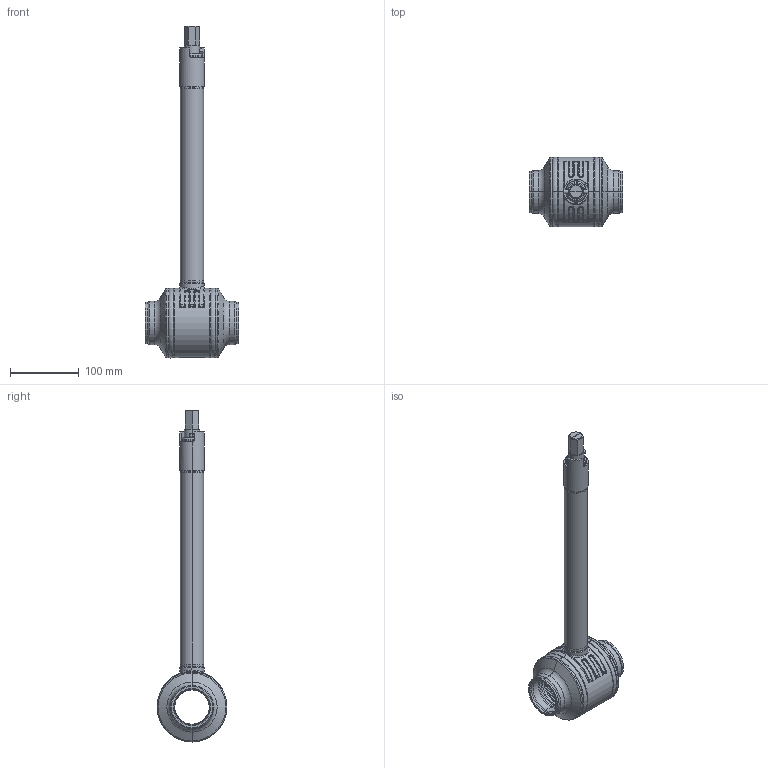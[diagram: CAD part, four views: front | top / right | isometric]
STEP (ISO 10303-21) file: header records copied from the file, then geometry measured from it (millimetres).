
FILE_DESCRIPTION((''),'2;1');
FILE_NAME('WSK21619_KHMO_50-U_KU_SW0001','2022-07-04T11:15:42',('jeitlers'),('KLINGER'),'CREO PARAMETRIC BY PTC INC, 2020184','CREO PARAMETRIC BY PTC INC, 2020184','');
FILE_SCHEMA(('AUTOMOTIVE_DESIGN { 1 0 10303 214 1 1 1 1 }'));
Length unit declared in the file: millimetre
Products named in the file (1): WSK21619_KHMO_50-U_KU_SW0001
Bounding box: 136 x 101.91 x 483.95 mm (x, y, z)
Volume: 772630.3 mm3; surface area: 232765.8 mm2
Topology: 4 solids, 4 shells, 548 faces, 1191 edges, 680 vertices
Faces by surface type: cylinder 161, torus 142, plane 81, bspline 80, cone 78, sphere 6
Entity records: 26333 total; most frequent: CARTESIAN_POINT 13535, DIRECTION 2664, ORIENTED_EDGE 2374, EDGE_CURVE 1187, AXIS2_PLACEMENT_3D 1177, CIRCLE 699, VERTEX_POINT 680, EDGE_LOOP 595
